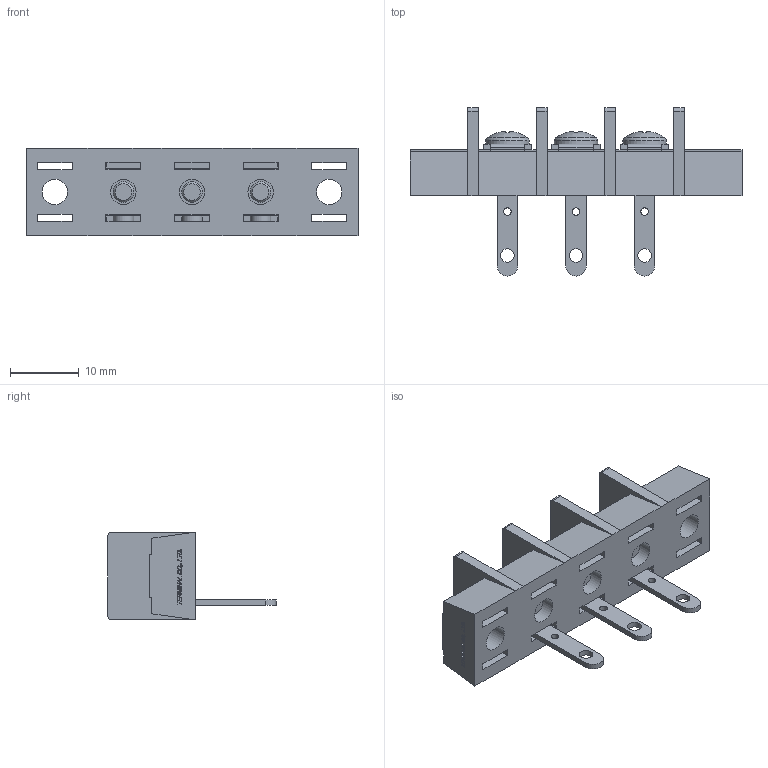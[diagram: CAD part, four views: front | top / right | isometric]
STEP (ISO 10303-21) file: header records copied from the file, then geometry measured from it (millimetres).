
FILE_DESCRIPTION(/* description */ ('Alibre Inc.'),/* implementation_level */ '2;1');
FILE_NAME(/* name */ 'export0',/* time_stamp */ '2015-10-22T20:34:25+09:00',/* author */ (''),/* organization */ (''),/* preprocessor_version */ 'ST-DEVELOPER v14',/* originating_system */ 'Alibre',/* authorisation */ '');
FILE_SCHEMA (('CONFIG_CONTROL_DESIGN'));
Length unit declared in the file: centimetre
Products named in the file (1): ID_1
Bounding box: 48.4 x 24.5 x 12.8 mm (x, y, z)
Volume: 4078.1 mm3; surface area: 4857.9 mm2
Topology: 1 solids, 52 shells, 1261 faces, 3265 edges, 2162 vertices
Faces by surface type: plane 935, bspline 260, cylinder 42, cone 15, torus 6, sphere 3
Full cylindrical faces by diameter (mm): 1.1 x3, 2 x3, 3 x6, 3.7 x5, 4.6 x5, 6.3 x3
Entity records: 36904 total; most frequent: CARTESIAN_POINT 8990, ORIENTED_EDGE 6452, DIRECTION 3816, EDGE_CURVE 3226, VECTOR 2497, LINE 2497, VERTEX_POINT 2157, EDGE_LOOP 1415
